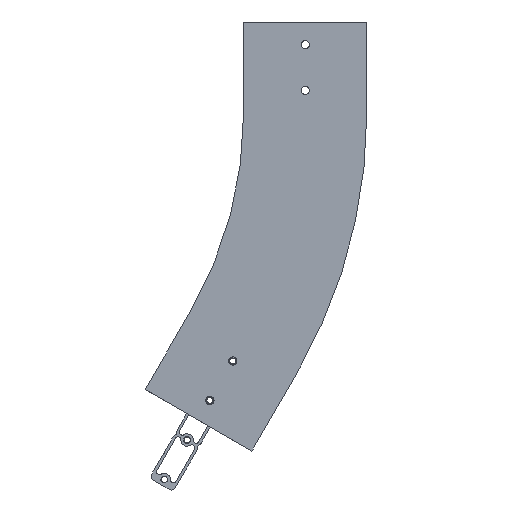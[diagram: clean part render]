
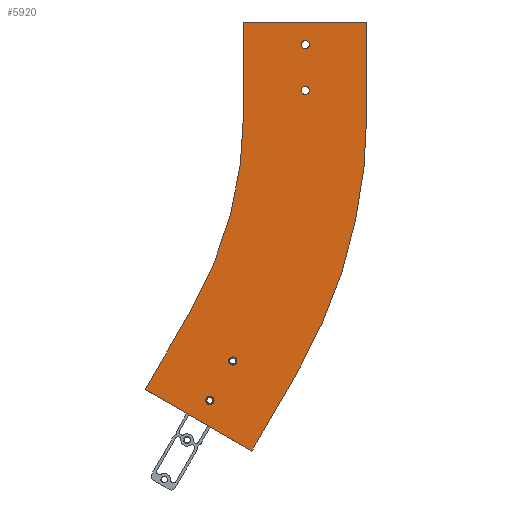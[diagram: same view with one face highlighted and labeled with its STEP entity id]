
A CAD part, left-side view. The second image highlights one B-rep face of the part: STEP entity #5920.
In plain terms, the highlighted planar face has unit normal (-1, 0, 0).
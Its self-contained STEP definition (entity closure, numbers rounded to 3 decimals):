
#1077 = CIRCLE ( 'NONE', #8066, 4.5 ) ;
#1080 = VECTOR ( 'NONE', #4029, 1000. ) ;
#1081 = CIRCLE ( 'NONE', #8069, 4.5 ) ;
#1082 = LINE ( 'NONE', #4030, #1080 ) ;
#1083 = CIRCLE ( 'NONE', #8068, 4.5 ) ;
#1393 = CARTESIAN_POINT ( 'NONE',  ( -59., 104.487, -410.452 ) ) ;
#1404 = CARTESIAN_POINT ( 'NONE',  ( -59., 104.487, -419.452 ) ) ;
#1409 = CARTESIAN_POINT ( 'NONE',  ( -59., 79.487, -367.151 ) ) ;
#1413 = CARTESIAN_POINT ( 'NONE',  ( -59., 79.487, -376.151 ) ) ;
#1417 = CARTESIAN_POINT ( 'NONE',  ( -59., 0., -20.5 ) ) ;
#1419 = CARTESIAN_POINT ( 'NONE',  ( -59., 0., -29.5 ) ) ;
#1424 = CARTESIAN_POINT ( 'NONE',  ( -59., 0., -70.5 ) ) ;
#1425 = CARTESIAN_POINT ( 'NONE',  ( -59., 0., -79.5 ) ) ;
#1567 = DIRECTION ( 'NONE',  ( 0., 0., 1. ) ) ;
#1569 = DIRECTION ( 'NONE',  ( -1., 0., 0. ) ) ;
#1570 = CARTESIAN_POINT ( 'NONE',  ( -59., -67.5, -100. ) ) ;
#1572 = PLANE ( 'NONE',  #8011 ) ;
#2453 = CIRCLE ( 'NONE', #8064, 4.5 ) ;
#2456 = VECTOR ( 'NONE', #4055, 1000. ) ;
#2457 = LINE ( 'NONE', #4056, #2456 ) ;
#2492 = CIRCLE ( 'NONE', #8053, 432.5 ) ;
#2521 = VECTOR ( 'NONE', #3705, 1000. ) ;
#2522 = LINE ( 'NONE', #3706, #2521 ) ;
#2541 = VECTOR ( 'NONE', #3785, 1000. ) ;
#2566 = VECTOR ( 'NONE', #3749, 1000. ) ;
#2567 = LINE ( 'NONE', #3750, #2566 ) ;
#2571 = CIRCLE ( 'NONE', #8056, 567.5 ) ;
#2577 = LINE ( 'NONE', #3786, #2541 ) ;
#2579 = VECTOR ( 'NONE', #3765, 1000. ) ;
#2580 = LINE ( 'NONE', #3766, #2579 ) ;
#2612 = CIRCLE ( 'NONE', #8049, 4.5 ) ;
#2624 = CIRCLE ( 'NONE', #8047, 4.5 ) ;
#2631 = CIRCLE ( 'NONE', #8045, 4.5 ) ;
#2639 = CIRCLE ( 'NONE', #8043, 4.5 ) ;
#2705 = FACE_OUTER_BOUND ( 'NONE', #4876, .T. ) ;
#2706 = FACE_BOUND ( 'NONE', #4877, .T. ) ;
#2707 = FACE_BOUND ( 'NONE', #4878, .T. ) ;
#2708 = FACE_BOUND ( 'NONE', #4879, .T. ) ;
#2709 = FACE_BOUND ( 'NONE', #4880, .T. ) ;
#2962 = VERTEX_POINT ( 'NONE', #6765 ) ;
#2963 = VERTEX_POINT ( 'NONE', #6764 ) ;
#2984 = VERTEX_POINT ( 'NONE', #6735 ) ;
#3009 = VERTEX_POINT ( 'NONE', #6700 ) ;
#3023 = VERTEX_POINT ( 'NONE', #6681 ) ;
#3027 = VERTEX_POINT ( 'NONE', #6675 ) ;
#3040 = VERTEX_POINT ( 'NONE', #6657 ) ;
#3167 = VERTEX_POINT ( 'NONE', #6478 ) ;
#3634 = DIRECTION ( 'NONE',  ( 0., 0., 1. ) ) ;
#3650 = DIRECTION ( 'NONE',  ( 0., 0., 1. ) ) ;
#3652 = CARTESIAN_POINT ( 'NONE',  ( -59., 79.487, -371.651 ) ) ;
#3653 = DIRECTION ( 'NONE',  ( -1., 0., 0. ) ) ;
#3665 = DIRECTION ( 'NONE',  ( 0., 0., 1. ) ) ;
#3667 = DIRECTION ( 'NONE',  ( -1., 0., 0. ) ) ;
#3668 = CARTESIAN_POINT ( 'NONE',  ( -59., 0., -25. ) ) ;
#3679 = DIRECTION ( 'NONE',  ( 0., 0., 1. ) ) ;
#3681 = CARTESIAN_POINT ( 'NONE',  ( -59., 0., -75. ) ) ;
#3682 = DIRECTION ( 'NONE',  ( -1., 0., 0. ) ) ;
#3705 = DIRECTION ( 'NONE',  ( 0., -0.866, -0.5 ) ) ;
#3706 = CARTESIAN_POINT ( 'NONE',  ( -59., 58.531, -470.353 ) ) ;
#3749 = DIRECTION ( 'NONE',  ( 0., 0., 1. ) ) ;
#3750 = CARTESIAN_POINT ( 'NONE',  ( -59., -67.5, -100. ) ) ;
#3756 = DIRECTION ( 'NONE',  ( 0., 0., -1. ) ) ;
#3757 = DIRECTION ( 'NONE',  ( 1., 0., 0. ) ) ;
#3758 = CARTESIAN_POINT ( 'NONE',  ( -59., 500., -100. ) ) ;
#3765 = DIRECTION ( 'NONE',  ( 0., 0.5, -0.866 ) ) ;
#3766 = CARTESIAN_POINT ( 'NONE',  ( -59., 8.531, -383.75 ) ) ;
#3785 = DIRECTION ( 'NONE',  ( 0., 0.5, -0.866 ) ) ;
#3786 = CARTESIAN_POINT ( 'NONE',  ( -59., 125.444, -316.25 ) ) ;
#3791 = DIRECTION ( 'NONE',  ( 0., 0., -1. ) ) ;
#3792 = DIRECTION ( 'NONE',  ( 1., 0., 0. ) ) ;
#3793 = CARTESIAN_POINT ( 'NONE',  ( -59., 500., -100. ) ) ;
#3822 = DIRECTION ( 'NONE',  ( -1., 0., 0. ) ) ;
#4028 = CARTESIAN_POINT ( 'NONE',  ( -59., 104.487, -414.952 ) ) ;
#4029 = DIRECTION ( 'NONE',  ( 0., -1., 0. ) ) ;
#4030 = CARTESIAN_POINT ( 'NONE',  ( -59., -67.5, 0. ) ) ;
#4033 = DIRECTION ( 'NONE',  ( 0., 0., 1. ) ) ;
#4034 = DIRECTION ( 'NONE',  ( -1., 0., 0. ) ) ;
#4035 = CARTESIAN_POINT ( 'NONE',  ( -59., 0., -75. ) ) ;
#4036 = DIRECTION ( 'NONE',  ( 0., 0., 1. ) ) ;
#4037 = DIRECTION ( 'NONE',  ( -1., 0., 0. ) ) ;
#4038 = CARTESIAN_POINT ( 'NONE',  ( -59., 0., -25. ) ) ;
#4043 = DIRECTION ( 'NONE',  ( 0., 0., 1. ) ) ;
#4044 = DIRECTION ( 'NONE',  ( -1., 0., 0. ) ) ;
#4045 = CARTESIAN_POINT ( 'NONE',  ( -59., 79.487, -371.651 ) ) ;
#4049 = DIRECTION ( 'NONE',  ( 0., 0., 1. ) ) ;
#4050 = DIRECTION ( 'NONE',  ( -1., 0., 0. ) ) ;
#4051 = CARTESIAN_POINT ( 'NONE',  ( -59., 104.487, -414.952 ) ) ;
#4055 = DIRECTION ( 'NONE',  ( 0., 0., 1. ) ) ;
#4056 = CARTESIAN_POINT ( 'NONE',  ( -59., 67.5, -100. ) ) ;
#4876 = EDGE_LOOP ( 'NONE', ( #5354, #5355, #5357, #5359, #5362, #5363, #5364, #5366 ) ) ;
#4877 = EDGE_LOOP ( 'NONE', ( #5352, #5353 ) ) ;
#4878 = EDGE_LOOP ( 'NONE', ( #5349, #5350 ) ) ;
#4879 = EDGE_LOOP ( 'NONE', ( #5347, #5348 ) ) ;
#4880 = EDGE_LOOP ( 'NONE', ( #5344, #5346 ) ) ;
#5344 = ORIENTED_EDGE ( 'NONE', *, *, #7250, .F. ) ;
#5346 = ORIENTED_EDGE ( 'NONE', *, *, #7147, .F. ) ;
#5347 = ORIENTED_EDGE ( 'NONE', *, *, #7249, .F. ) ;
#5348 = ORIENTED_EDGE ( 'NONE', *, *, #7151, .F. ) ;
#5349 = ORIENTED_EDGE ( 'NONE', *, *, #7247, .F. ) ;
#5350 = ORIENTED_EDGE ( 'NONE', *, *, #7155, .F. ) ;
#5352 = ORIENTED_EDGE ( 'NONE', *, *, #7245, .F. ) ;
#5353 = ORIENTED_EDGE ( 'NONE', *, *, #7159, .F. ) ;
#5354 = ORIENTED_EDGE ( 'NONE', *, *, #7251, .F. ) ;
#5355 = ORIENTED_EDGE ( 'NONE', *, *, #7243, .F. ) ;
#5357 = ORIENTED_EDGE ( 'NONE', *, *, #7175, .T. ) ;
#5359 = ORIENTED_EDGE ( 'NONE', *, *, #7178, .T. ) ;
#5362 = ORIENTED_EDGE ( 'NONE', *, *, #7215, .T. ) ;
#5363 = ORIENTED_EDGE ( 'NONE', *, *, #7187, .F. ) ;
#5364 = ORIENTED_EDGE ( 'NONE', *, *, #7191, .F. ) ;
#5366 = ORIENTED_EDGE ( 'NONE', *, *, #7194, .T. ) ;
#5920 = ADVANCED_FACE ( 'NONE', ( #2709, #2708, #2707, #2706, #2705 ), #1572, .T. ) ;
#6478 = CARTESIAN_POINT ( 'NONE',  ( -59., 8.531, -383.75 ) ) ;
#6484 = VERTEX_POINT ( 'NONE', #1425 ) ;
#6488 = VERTEX_POINT ( 'NONE', #1424 ) ;
#6499 = VERTEX_POINT ( 'NONE', #1419 ) ;
#6504 = VERTEX_POINT ( 'NONE', #1417 ) ;
#6513 = VERTEX_POINT ( 'NONE', #1413 ) ;
#6522 = VERTEX_POINT ( 'NONE', #1409 ) ;
#6537 = VERTEX_POINT ( 'NONE', #1404 ) ;
#6566 = VERTEX_POINT ( 'NONE', #1393 ) ;
#6657 = CARTESIAN_POINT ( 'NONE',  ( -59., -67.5, -100. ) ) ;
#6675 = CARTESIAN_POINT ( 'NONE',  ( -59., -67.5, 0. ) ) ;
#6681 = CARTESIAN_POINT ( 'NONE',  ( -59., 67.5, -100. ) ) ;
#6700 = CARTESIAN_POINT ( 'NONE',  ( -59., 125.444, -316.25 ) ) ;
#6735 = CARTESIAN_POINT ( 'NONE',  ( -59., 58.531, -470.353 ) ) ;
#6764 = CARTESIAN_POINT ( 'NONE',  ( -59., 67.5, 0. ) ) ;
#6765 = CARTESIAN_POINT ( 'NONE',  ( -59., 175.444, -402.853 ) ) ;
#7147 = EDGE_CURVE ( 'NONE', #6484, #6488, #2639, .T. ) ;
#7151 = EDGE_CURVE ( 'NONE', #6499, #6504, #2631, .T. ) ;
#7155 = EDGE_CURVE ( 'NONE', #6513, #6522, #2624, .T. ) ;
#7159 = EDGE_CURVE ( 'NONE', #6537, #6566, #2612, .T. ) ;
#7175 = EDGE_CURVE ( 'NONE', #3023, #3009, #2492, .T. ) ;
#7178 = EDGE_CURVE ( 'NONE', #3009, #2962, #2577, .T. ) ;
#7187 = EDGE_CURVE ( 'NONE', #3167, #2984, #2580, .T. ) ;
#7191 = EDGE_CURVE ( 'NONE', #3040, #3167, #2571, .T. ) ;
#7194 = EDGE_CURVE ( 'NONE', #3040, #3027, #2567, .T. ) ;
#7215 = EDGE_CURVE ( 'NONE', #2962, #2984, #2522, .T. ) ;
#7243 = EDGE_CURVE ( 'NONE', #3023, #2963, #2457, .T. ) ;
#7245 = EDGE_CURVE ( 'NONE', #6566, #6537, #2453, .T. ) ;
#7247 = EDGE_CURVE ( 'NONE', #6522, #6513, #1077, .T. ) ;
#7249 = EDGE_CURVE ( 'NONE', #6504, #6499, #1083, .T. ) ;
#7250 = EDGE_CURVE ( 'NONE', #6488, #6484, #1081, .T. ) ;
#7251 = EDGE_CURVE ( 'NONE', #2963, #3027, #1082, .T. ) ;
#8011 = AXIS2_PLACEMENT_3D ( 'NONE', #1570, #1569, #1567 ) ;
#8043 = AXIS2_PLACEMENT_3D ( 'NONE', #3681, #3682, #3679 ) ;
#8045 = AXIS2_PLACEMENT_3D ( 'NONE', #3668, #3667, #3665 ) ;
#8047 = AXIS2_PLACEMENT_3D ( 'NONE', #3652, #3653, #3650 ) ;
#8049 = AXIS2_PLACEMENT_3D ( 'NONE', #4028, #3822, #3634 ) ;
#8053 = AXIS2_PLACEMENT_3D ( 'NONE', #3793, #3792, #3791 ) ;
#8056 = AXIS2_PLACEMENT_3D ( 'NONE', #3758, #3757, #3756 ) ;
#8064 = AXIS2_PLACEMENT_3D ( 'NONE', #4051, #4050, #4049 ) ;
#8066 = AXIS2_PLACEMENT_3D ( 'NONE', #4045, #4044, #4043 ) ;
#8068 = AXIS2_PLACEMENT_3D ( 'NONE', #4038, #4037, #4036 ) ;
#8069 = AXIS2_PLACEMENT_3D ( 'NONE', #4035, #4034, #4033 ) ;
